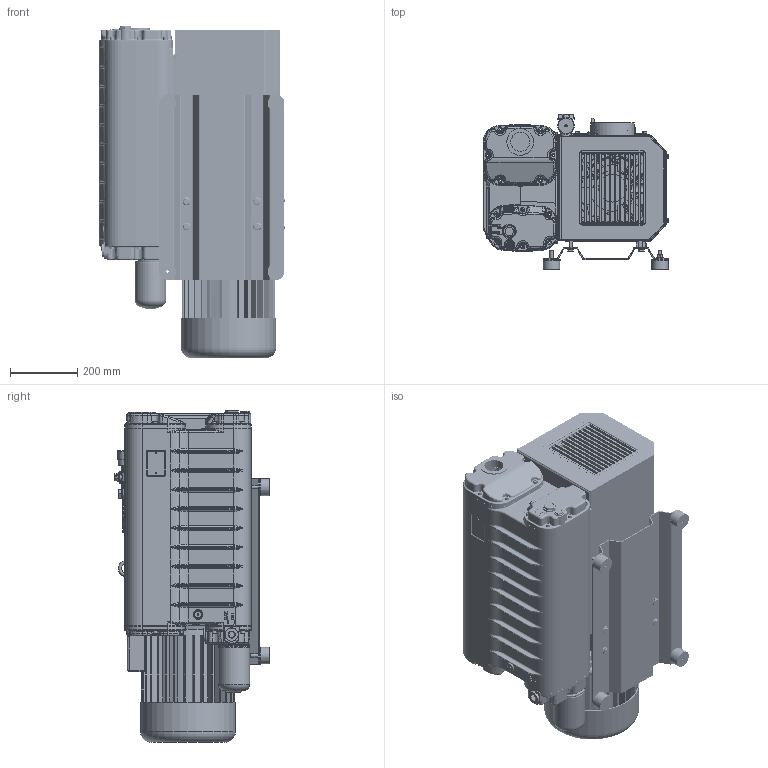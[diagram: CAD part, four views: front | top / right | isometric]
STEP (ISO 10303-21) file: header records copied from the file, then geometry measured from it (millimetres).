
FILE_DESCRIPTION (( 'STEP AP203' ), '1' );
FILE_NAME ('PH300CAG43_mot_SMEM_FE(2012).STEP', '2024-04-19T12:35:12', ( '' ), ( '' ), 'SwSTEP 2.0', 'SolidWorks 2023', '' );
FILE_SCHEMA (( 'CONFIG_CONTROL_DESIGN' ));
Products named in the file (1): PH300CAG43_mot_SMEM_FE(2012)
Bounding box: 550.92 x 460.12 x 985.64 mm (x, y, z)
Surface area: 4143128.4 mm2 (no closed solid volume)
Topology: 0 solids, 359 shells, 3918 faces, 14530 edges, 10490 vertices
Faces by surface type: plane 2194, cylinder 819, bspline 417, cone 246, torus 218, sphere 24
Full cylindrical faces by diameter (mm): 0.4 x132, 3.6 x1, 5 x2, 6 x1, 6.8 x8, 7 x1, 9 x1, 10 x5, 10.2 x4, 11 x1, 12 x1, 13 x25, 14 x8, 16 x2, 18 x7, 20 x2, 20.9 x1, 21 x1, 22.5 x1, 24 x4, 26 x2, 27 x3, 28 x3, 30 x2, 32 x1, 36 x2, 40 x8, 42 x1, 43.8 x4, 46 x1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
Entity records: 176030 total; most frequent: CARTESIAN_POINT 63657, DIRECTION 21384, ORIENTED_EDGE 20553, EDGE_CURVE 14029, VERTEX_POINT 10420, LINE 8398, VECTOR 8398, AXIS2_PLACEMENT_3D 6493
